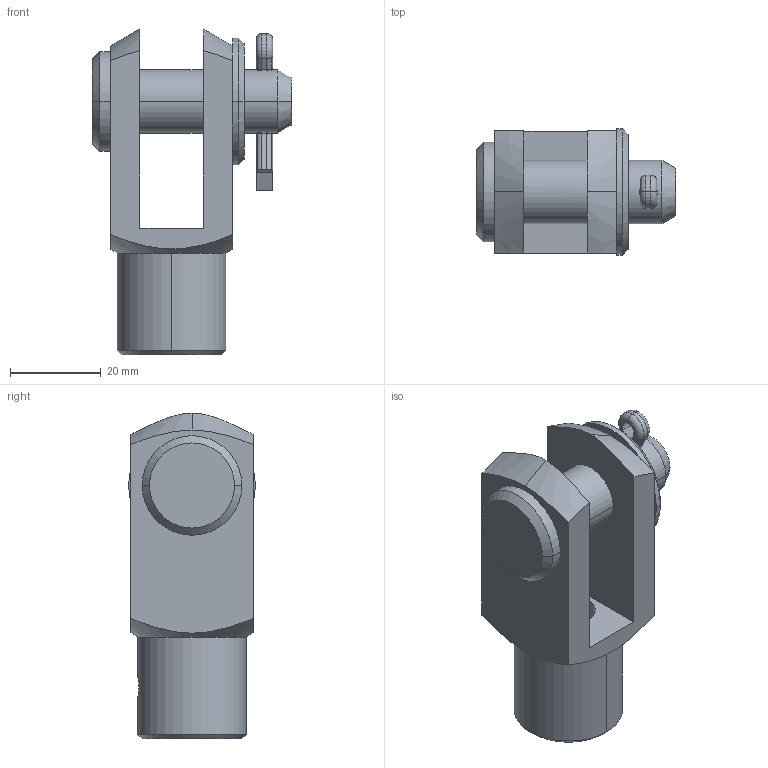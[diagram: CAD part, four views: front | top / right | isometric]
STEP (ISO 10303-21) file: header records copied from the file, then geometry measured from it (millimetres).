
FILE_DESCRIPTION (( 'STEP AP203' ), '1' );
FILE_NAME ('MJ2-GS.STEP', '2024-01-15T15:14:43', ( '' ), ( '' ), 'SwSTEP 2.0', 'SolidWorks 2022', '' );
FILE_SCHEMA (( 'CONFIG_CONTROL_DESIGN' ));
Length unit declared in the file: millimetre
Products named in the file (1): MJ2-GS
Bounding box: 44 x 28 x 72 mm (x, y, z)
Volume: 31640.2 mm3; surface area: 14337.3 mm2
Topology: 4 solids, 4 shells, 93 faces, 230 edges, 144 vertices
Faces by surface type: cylinder 48, plane 27, cone 14, torus 4
Entity records: 3100 total; most frequent: CARTESIAN_POINT 867, ORIENTED_EDGE 460, DIRECTION 442, EDGE_CURVE 230, AXIS2_PLACEMENT_3D 166, VERTEX_POINT 144, VECTOR 110, LINE 110
